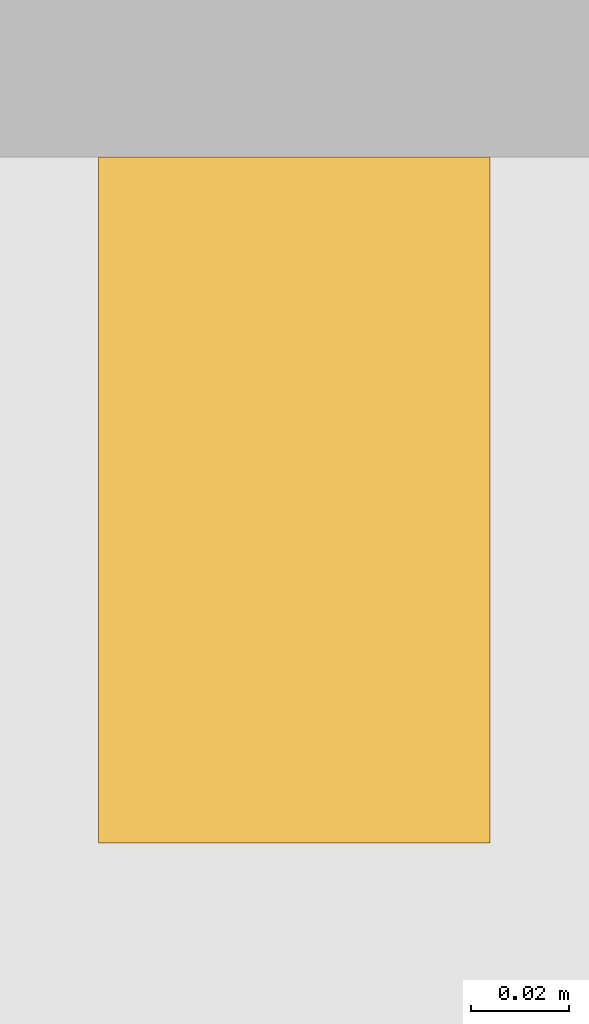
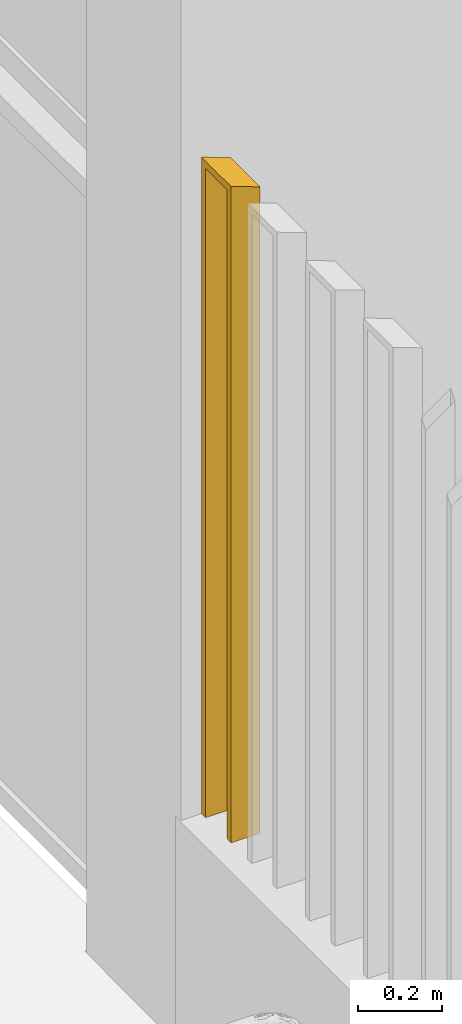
# One storey, part 67 of 77: 1 railing.
"""IFC2X3 building model written with IfcOpenShell, lengths in millimetres."""

from ifc_helpers import new_model, entity, si_unit, converted_unit, derived_unit, direction, frame, origin, place, context, subcontext, project, spatial, faceted_brep, material, element, save


model = new_model("IFC2X3")

# Units and contexts
model_context = context("Model", 3, precision=0.01, world=origin(), true_north=direction((6.12303176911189e-17, 1.0)))
body_context = subcontext(model_context, "Body", "Model", "MODEL_VIEW")
ifc_project = project(units=[si_unit("LENGTHUNIT", "METRE", prefix="MILLI"), si_unit("AREAUNIT", "SQUARE_METRE"), si_unit("VOLUMEUNIT", "CUBIC_METRE"), converted_unit("PLANEANGLEUNIT", "DEGREE", entity("IfcRatioMeasure", 0.0174532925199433), si_unit("PLANEANGLEUNIT", "RADIAN"), dimensions=[0, 0, 0, 0, 0, 0, 0]), si_unit("MASSUNIT", "GRAM", prefix="KILO"), derived_unit("MASSDENSITYUNIT", [(si_unit("MASSUNIT", "GRAM", prefix="KILO"), 1), (si_unit("LENGTHUNIT", "METRE"), -3)]), si_unit("TIMEUNIT", "SECOND"), si_unit("FREQUENCYUNIT", "HERTZ"), si_unit("THERMODYNAMICTEMPERATUREUNIT", "DEGREE_CELSIUS"), derived_unit("THERMALTRANSMITTANCEUNIT", [(si_unit("MASSUNIT", "GRAM", prefix="KILO"), 1), (si_unit("THERMODYNAMICTEMPERATUREUNIT", "KELVIN"), -1), (si_unit("TIMEUNIT", "SECOND"), -3)]), derived_unit("VOLUMETRICFLOWRATEUNIT", [(si_unit("LENGTHUNIT", "METRE"), 3), (si_unit("TIMEUNIT", "SECOND"), -1)]), si_unit("ELECTRICCURRENTUNIT", "AMPERE"), si_unit("ELECTRICVOLTAGEUNIT", "VOLT"), si_unit("POWERUNIT", "WATT"), si_unit("FORCEUNIT", "NEWTON", prefix="KILO"), si_unit("ILLUMINANCEUNIT", "LUX"), si_unit("LUMINOUSFLUXUNIT", "LUMEN"), si_unit("LUMINOUSINTENSITYUNIT", "CANDELA"), derived_unit("USERDEFINED", [(si_unit("MASSUNIT", "GRAM", prefix="KILO"), -1), (si_unit("LENGTHUNIT", "METRE"), -2), (si_unit("TIMEUNIT", "SECOND"), 3), (si_unit("LUMINOUSFLUXUNIT", "LUMEN"), 1)]), derived_unit("LINEARVELOCITYUNIT", [(si_unit("LENGTHUNIT", "METRE"), 1), (si_unit("TIMEUNIT", "SECOND"), -1)]), si_unit("PRESSUREUNIT", "PASCAL"), derived_unit("USERDEFINED", [(si_unit("LENGTHUNIT", "METRE"), -2), (si_unit("MASSUNIT", "GRAM", prefix="KILO"), 1), (si_unit("TIMEUNIT", "SECOND"), -2)])], contexts=[model_context])

# Site, building, storey
site_placement = place(None, origin())
site = spatial("IfcSite", under=ifc_project, at=site_placement, Name="Default", CompositionType="ELEMENT")
building_placement = place(site_placement, origin())
building = spatial("IfcBuilding", under=site, at=building_placement, CompositionType="ELEMENT")
storey_placement = place(building_placement, origin())
storey = spatial("IfcBuildingStorey", under=building, at=storey_placement, Name="1. KORRUS", CompositionType="ELEMENT", Elevation=0.0)

# Railing
ifc_material = material(Name="Default New Material(4)")
railing_placement = place(storey_placement, frame((1360.63914597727, -590.000062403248, 550.0)))
element("IfcRailing", 1, at=railing_placement, inside=storey, material=ifc_material, Name="Railing:2m 1 kaar", ObjectType="Railing:2m 1 kaar", PredefinedType="NOTDEFINED", context=body_context, shape_type="Brep", body=[
    faceted_brep([(0.0, 0.0, 0.0), (80.0, 0.0, 0.0), (80.0, 0.0, 1870.8823812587), (0.0, 0.0, 1900.0), (0.0, 140.0, 1900.0), (0.0, 140.0, 0.0), (0.0, 120.0, 0.0), (0.0, 120.0, 1878.71644455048), (0.0, 20.0, 1878.71644455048), (0.0, 20.0, 0.0), (80.0, 20.0, 0.0), (80.0, 20.0, 1849.59882580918), (80.0, 120.0, 1849.59882580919), (80.0, 120.0, 0.0), (80.0, 140.0, 0.0), (80.0, 140.0, 1870.8823812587)], [[[0, 1, 2, 3]], [[3, 4, 5, 6, 7, 8, 9, 0]], [[1, 10, 11, 12, 13, 14, 15, 2]], [[0, 9, 10, 1]], [[9, 8, 11, 10]], [[13, 12, 7, 6]], [[6, 5, 14, 13]], [[5, 4, 15, 14]], [[2, 15, 4, 3]], [[11, 8, 7, 12]]]),
])

save(model, "model.ifc")
